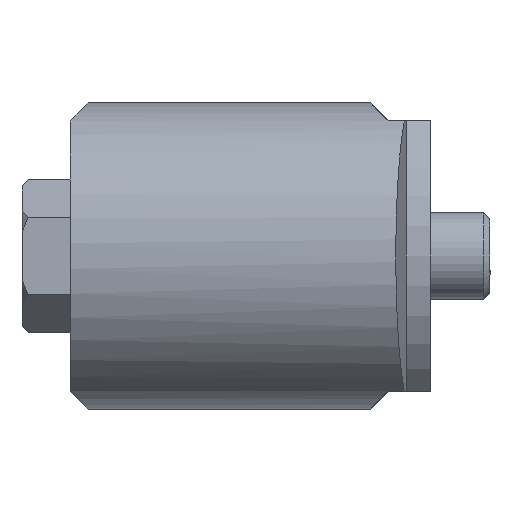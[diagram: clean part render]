
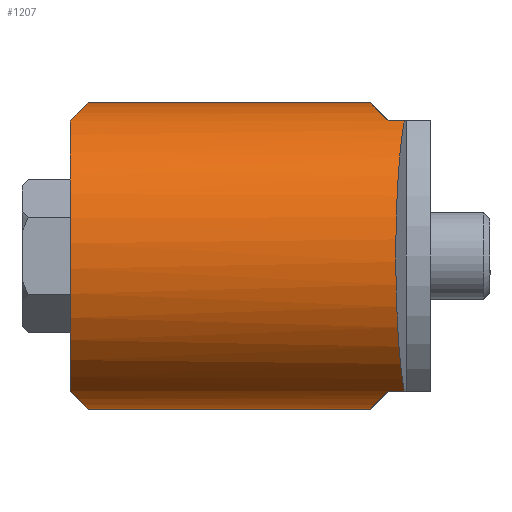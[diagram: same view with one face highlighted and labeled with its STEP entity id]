
A CAD part, left-side view. The second image highlights one B-rep face of the part: STEP entity #1207.
In plain terms, the highlighted cylindrical face has radius 12.75 mm (diameter 25.5 mm), a partial arc.
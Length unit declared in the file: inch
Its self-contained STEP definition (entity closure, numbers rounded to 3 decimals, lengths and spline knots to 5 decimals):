
#38=ELLIPSE('',#1310,0.70989,0.50197);
#39=ELLIPSE('',#1313,0.70989,0.50197);
#40=ELLIPSE('',#1316,0.70989,0.50197);
#41=ELLIPSE('',#1318,0.70989,0.50197);
#42=ELLIPSE('',#1322,0.50473,0.50197);
#71=LINE('',#1879,#140);
#84=LINE('',#1909,#153);
#93=LINE('',#1934,#162);
#94=LINE('',#1936,#163);
#140=VECTOR('',#1510,0.3937);
#153=VECTOR('',#1529,0.3937);
#162=VECTOR('',#1556,0.3937);
#163=VECTOR('',#1559,0.3937);
#206=CYLINDRICAL_SURFACE('',#1323,0.50197);
#237=FACE_OUTER_BOUND('',#307,.T.);
#307=EDGE_LOOP('',(#828,#829,#830,#831,#832,#833,#834,#835,#836,#837));
#389=CIRCLE('',#1324,0.50197);
#471=VERTEX_POINT('',#1869);
#472=VERTEX_POINT('',#1870);
#475=VERTEX_POINT('',#1878);
#480=VERTEX_POINT('',#1890);
#481=VERTEX_POINT('',#1891);
#488=VERTEX_POINT('',#1906);
#489=VERTEX_POINT('',#1908);
#491=VERTEX_POINT('',#1914);
#493=VERTEX_POINT('',#1920);
#494=VERTEX_POINT('',#1921);
#598=EDGE_CURVE('',#471,#472,#38,.T.);
#602=EDGE_CURVE('',#472,#475,#71,.T.);
#608=EDGE_CURVE('',#480,#481,#39,.T.);
#616=EDGE_CURVE('',#489,#488,#84,.T.);
#619=EDGE_CURVE('',#488,#491,#40,.T.);
#622=EDGE_CURVE('',#493,#494,#41,.T.);
#628=EDGE_CURVE('',#475,#489,#42,.T.);
#629=EDGE_CURVE('',#491,#493,#93,.T.);
#630=EDGE_CURVE('',#480,#494,#389,.T.);
#631=EDGE_CURVE('',#471,#481,#94,.T.);
#828=ORIENTED_EDGE('',*,*,#598,.T.);
#829=ORIENTED_EDGE('',*,*,#602,.T.);
#830=ORIENTED_EDGE('',*,*,#628,.T.);
#831=ORIENTED_EDGE('',*,*,#616,.T.);
#832=ORIENTED_EDGE('',*,*,#619,.T.);
#833=ORIENTED_EDGE('',*,*,#629,.T.);
#834=ORIENTED_EDGE('',*,*,#622,.T.);
#835=ORIENTED_EDGE('',*,*,#630,.F.);
#836=ORIENTED_EDGE('',*,*,#608,.T.);
#837=ORIENTED_EDGE('',*,*,#631,.F.);
#1207=ADVANCED_FACE('',(#237),#206,.T.);
#1310=AXIS2_PLACEMENT_3D('',#1871,#1503,#1504);
#1313=AXIS2_PLACEMENT_3D('',#1892,#1518,#1519);
#1316=AXIS2_PLACEMENT_3D('',#1915,#1534,#1535);
#1318=AXIS2_PLACEMENT_3D('',#1922,#1540,#1541);
#1322=AXIS2_PLACEMENT_3D('',#1932,#1552,#1553);
#1323=AXIS2_PLACEMENT_3D('',#1933,#1554,#1555);
#1324=AXIS2_PLACEMENT_3D('',#1935,#1557,#1558);
#1503=DIRECTION('center_axis',(0.,0.707,0.707));
#1504=DIRECTION('ref_axis',(0.,-0.707,0.707));
#1510=DIRECTION('',(0.,-1.,0.));
#1518=DIRECTION('center_axis',(0.,-0.707,0.707));
#1519=DIRECTION('ref_axis',(0.,0.707,0.707));
#1529=DIRECTION('',(0.,1.,0.));
#1534=DIRECTION('center_axis',(0.,0.707,-0.707));
#1535=DIRECTION('ref_axis',(0.,0.707,0.707));
#1540=DIRECTION('center_axis',(0.,-0.707,-0.707));
#1541=DIRECTION('ref_axis',(0.,-0.707,0.707));
#1552=DIRECTION('center_axis',(0.105,0.995,0.));
#1553=DIRECTION('ref_axis',(-0.995,0.105,0.));
#1554=DIRECTION('center_axis',(0.,-1.,0.));
#1555=DIRECTION('ref_axis',(0.,0.,1.));
#1556=DIRECTION('',(0.,1.,0.));
#1557=DIRECTION('center_axis',(0.,1.,0.));
#1558=DIRECTION('ref_axis',(0.,0.,1.));
#1559=DIRECTION('',(0.,1.,0.));
#1869=CARTESIAN_POINT('',(-1.90163,-0.02817,-1.64506));
#1870=CARTESIAN_POINT('',(-2.13785,-0.08722,-1.58601));
#1871=CARTESIAN_POINT('Origin',(-1.90163,-0.53014,-1.14309));
#1878=CARTESIAN_POINT('',(-2.13785,-0.14069,-1.58601));
#1879=CARTESIAN_POINT('',(-2.13785,0.95608,-1.58601));
#1890=CARTESIAN_POINT('',(-2.13785,0.95608,-1.58601));
#1891=CARTESIAN_POINT('',(-1.90163,0.89703,-1.64506));
#1892=CARTESIAN_POINT('Origin',(-1.90163,1.399,-1.14309));
#1906=CARTESIAN_POINT('',(-2.13785,-0.08722,-0.70018));
#1908=CARTESIAN_POINT('',(-2.13785,-0.14069,-0.70018));
#1909=CARTESIAN_POINT('',(-2.13785,0.95608,-0.70018));
#1914=CARTESIAN_POINT('',(-1.90163,-0.02817,-0.64112));
#1915=CARTESIAN_POINT('Origin',(-1.90163,-0.53014,-1.14309));
#1920=CARTESIAN_POINT('',(-1.90163,0.89703,-0.64112));
#1921=CARTESIAN_POINT('',(-2.13785,0.95608,-0.70018));
#1922=CARTESIAN_POINT('Origin',(-1.90163,1.399,-1.14309));
#1932=CARTESIAN_POINT('Origin',(-1.90163,-0.16552,-1.14309));
#1933=CARTESIAN_POINT('Origin',(-1.90163,0.95608,-1.14309));
#1934=CARTESIAN_POINT('',(-1.90163,0.95608,-0.64112));
#1935=CARTESIAN_POINT('Origin',(-1.90163,0.95608,-1.14309));
#1936=CARTESIAN_POINT('',(-1.90163,0.95608,-1.64506));
